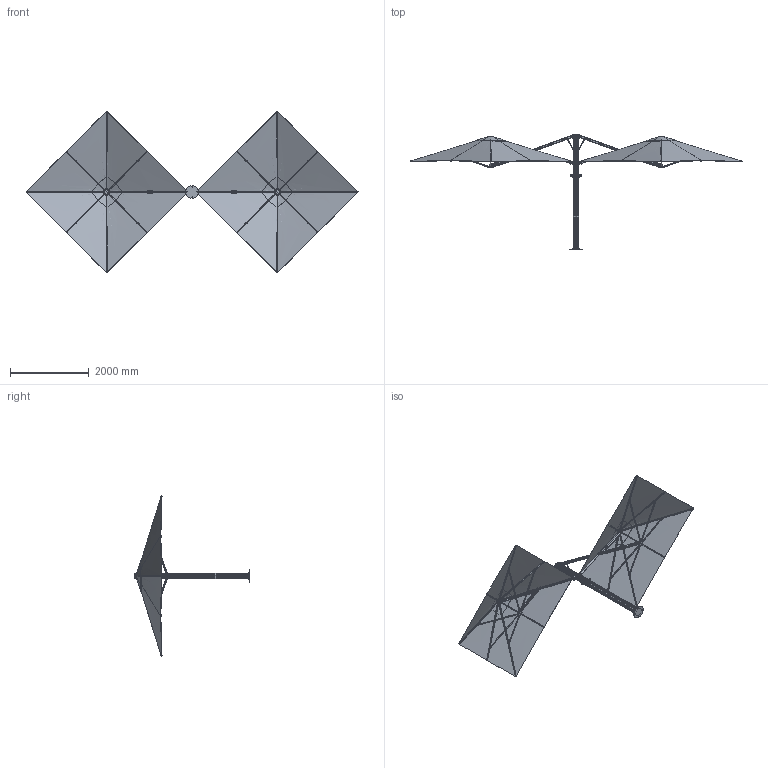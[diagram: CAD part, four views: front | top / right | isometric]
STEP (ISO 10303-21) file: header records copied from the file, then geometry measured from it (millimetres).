
FILE_DESCRIPTION (( 'STEP AP203' ), '1' );
FILE_NAME ('Unity 3M Square Duo Opposite.STEP', '2020-06-18T22:46:10', ( '' ), ( '' ), 'SwSTEP 2.0', 'SolidWorks 2017', '' );
FILE_SCHEMA (( 'CONFIG_CONTROL_DESIGN' ));
Length unit declared in the file: millimetre
Products named in the file (51): flat washer regular_am_B18.22M - Plain washer, 6 mm, regular; SMP_UM - 110102_Stretched; SMP_UM - 110094; SMP_UM - 110075; SMP_Um - 110192; SMP_UM - 110190; SMP_UM - 110170; SMP_UM - 110187; SMP_UM - 110065; SMP_UM - 110066; SMP_UM - 110110; SMP_UM - 110092; SMP_UM - 210019; SMP_UM - 110169; SMP_UM - 110168; SMP_UM - 110131; SMP_UM - 110098; socket button head cap screw_am_B18.3.4M - 5 x 0.8 x 16 SBHCS --N; SMP_UM - 110313_Default<As Machined>; UM - 210036; SMP_UM - 110116; socket button head cap screw_am_B18.3.4M - 5 x 0.8 x 20 SBHCS --N; SMP_UM - 110189; Unity 3M Square Duo Opposite; SMP_UM - 110204; SMP_UM - 110171; SMP_UM - 110126 (2); SMP_UM - 110069; SMP_UM - 110088; SMP_UM - 110063; SMP_UM - 110222; SMP_UM - 110085; SMP_UM - 010263_3M SQR; SMP_UM - 110084; SMP_UM - 110186; SMP_UM - 110079; SMP_UM - 110187b; SMP_UM - 110112_ALL HOLES; SMP_UM - 110117; SMP_UM - 110070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
Assembly tree (75 placements, depth 4):
  Unity 3M Square Duo Opposite
    SMP_UM - 110116
      SMP_UM - 110112_ALL HOLES
    SMP_UM - 110123
      SMP_UM - 110313_Default<As Machined>
    SMP_UM - 110222
    SMP_UM - 110126 (2)
    SMP_UM - 010020_Canopy Only - Open  x2
      SMP_UM - 110169
        SMP_UM - 110186
        SMP_UM - 110080  x2
      SMP_UM - 110170
        SMP_UM - 110187b
        SMP_UM - 110187
        SMP_UM - 110084
        socket button head cap screw_am_B18.3.4M - 5 x 0.8 x 16 SBHCS --N
        UM - 210036
        SMP_UM - 110085  x2
      SMP_UM - 110064
        SMP_UM - 110092
      SMP_UM - 110063
        SMP_UM - 110092
        SMP_UM - 110093
        SMP_UM - 110094
        SMP_UM - 110110
      SMP_UM - 110171
        SMP_UM - 110189
        SMP_UM - 110089
        SMP_UM - 110088
        flat washer regular_am_B18.22M - Plain washer, 6 mm, regular
        socket button head cap screw_am_B18.3.4M - 5 x 0.8 x 20 SBHCS --N
        SMP_UM - 110131
      SMP_UM - 110204
        SMP_UM - 110190
        SMP_UM - 110089  x2
      SMP_UM - 110066
        SMP_UM - 110098
        SMP_UM - 110075
        SMP_UM - 110096_PD
        SMP_UM - 110102_Stretched
      SMP_UM - 210043 - Gastec Spring_Extended
      SMP_UM - 110205
        SMP_UM - 110191
        SMP_UM - 110089
        SMP_UM - 210019
        SMP_UM - 110088
        flat washer regular_am_B18.22M - Plain washer, 6 mm, regular
        socket button head cap screw_am_B18.3.4M - 5 x 0.8 x 20 SBHCS --N
        SMP_UM - 110131
      SMP_UM - 110172
        SMP_Um - 110192
        SMP_UM - 110089  x2
      SMP_UM - 110168
        SMP_UM - 110075
        SMP_UM - 110079
      SMP_UM - 010263_3M SQR
    SMP_UM - 110117
    SMP_UM - 110065  x2
      SMP_UM - 110070
      SMP_UM - 110069
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Bounding box: 8412.11 x 2932.5 x 4084.6 mm (x, y, z)
Volume: 83389153 mm3; surface area: 46505596 mm2
Topology: 191 solids, 195 shells, 3718 faces, 9020 edges, 5704 vertices
Faces by surface type: plane 1196, cylinder 1108, bspline 650, cone 548, torus 166, sphere 50
Entity records: 74465 total; most frequent: CARTESIAN_POINT 44897, ORIENTED_EDGE 5258, DIRECTION 4461, EDGE_CURVE 2629, AXIS2_PLACEMENT_3D 1762, VERTEX_POINT 1636, EDGE_LOOP 1123, ADVANCED_FACE 1082
